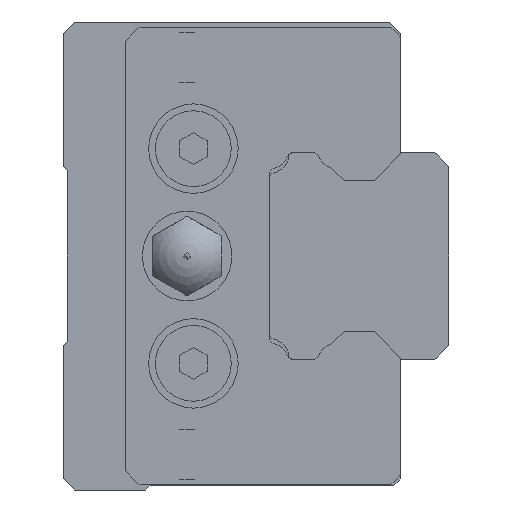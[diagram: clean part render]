
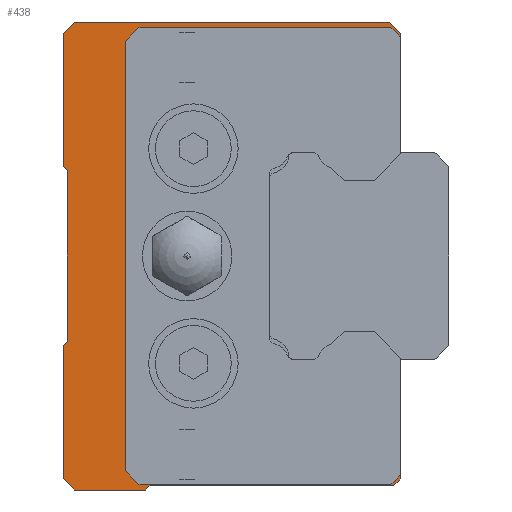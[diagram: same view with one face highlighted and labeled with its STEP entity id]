
A CAD part, left-side view. The second image highlights one B-rep face of the part: STEP entity #438.
In plain terms, the highlighted planar face has unit normal (-1, 0, 0).
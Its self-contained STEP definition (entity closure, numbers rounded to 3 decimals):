
#438 = ADVANCED_FACE( '', ( #893 ), #894, .F. );
#893 = FACE_OUTER_BOUND( '', #1465, .T. );
#894 = PLANE( '', #1466 );
#1465 = EDGE_LOOP( '', ( #2651, #2652, #2653, #2654, #2655, #2656, #2657, #2658, #2659, #2660, #2661, #2662, #2663, #2664, #2665, #2666, #2667, #2668, #2669, #2670, #2671, #2672 ) );
#1466 = AXIS2_PLACEMENT_3D( '', #2673, #2674, #2675 );
#2651 = ORIENTED_EDGE( '', *, *, #3565, .T. );
#2652 = ORIENTED_EDGE( '', *, *, #3562, .T. );
#2653 = ORIENTED_EDGE( '', *, *, #3436, .F. );
#2654 = ORIENTED_EDGE( '', *, *, #3446, .F. );
#2655 = ORIENTED_EDGE( '', *, *, #3448, .F. );
#2656 = ORIENTED_EDGE( '', *, *, #3450, .F. );
#2657 = ORIENTED_EDGE( '', *, *, #3405, .F. );
#2658 = ORIENTED_EDGE( '', *, *, #3430, .F. );
#2659 = ORIENTED_EDGE( '', *, *, #3467, .F. );
#2660 = ORIENTED_EDGE( '', *, *, #3465, .F. );
#2661 = ORIENTED_EDGE( '', *, *, #3463, .F. );
#2662 = ORIENTED_EDGE( '', *, *, #3459, .F. );
#2663 = ORIENTED_EDGE( '', *, *, #3457, .F. );
#2664 = ORIENTED_EDGE( '', *, *, #3455, .F. );
#2665 = ORIENTED_EDGE( '', *, *, #3453, .F. );
#2666 = ORIENTED_EDGE( '', *, *, #3451, .F. );
#2667 = ORIENTED_EDGE( '', *, *, #3442, .F. );
#2668 = ORIENTED_EDGE( '', *, *, #3561, .T. );
#2669 = ORIENTED_EDGE( '', *, *, #3559, .T. );
#2670 = ORIENTED_EDGE( '', *, *, #3556, .T. );
#2671 = ORIENTED_EDGE( '', *, *, #3553, .T. );
#2672 = ORIENTED_EDGE( '', *, *, #3567, .T. );
#2673 = CARTESIAN_POINT( '', ( 0., 0., 0. ) );
#2674 = DIRECTION( '', ( 1., 0., 0. ) );
#2675 = DIRECTION( '', ( 0., 0., -1. ) );
#3405 = EDGE_CURVE( '', #3998, #3999, #4000, .T. );
#3430 = EDGE_CURVE( '', #4047, #3998, #4048, .T. );
#3436 = EDGE_CURVE( '', #4056, #4058, #4059, .T. );
#3442 = EDGE_CURVE( '', #4068, #4070, #4071, .T. );
#3446 = EDGE_CURVE( '', #4076, #4056, #4077, .T. );
#3448 = EDGE_CURVE( '', #4079, #4076, #4080, .T. );
#3450 = EDGE_CURVE( '', #3999, #4079, #4082, .T. );
#3451 = EDGE_CURVE( '', #4070, #4083, #4084, .T. );
#3453 = EDGE_CURVE( '', #4083, #4086, #4087, .T. );
#3455 = EDGE_CURVE( '', #4086, #4089, #4090, .T. );
#3457 = EDGE_CURVE( '', #4089, #4092, #4093, .T. );
#3459 = EDGE_CURVE( '', #4092, #4095, #4096, .T. );
#3463 = EDGE_CURVE( '', #4095, #4102, #4103, .T. );
#3465 = EDGE_CURVE( '', #4102, #4105, #4106, .T. );
#3467 = EDGE_CURVE( '', #4105, #4047, #4108, .T. );
#3553 = EDGE_CURVE( '', #4247, #4248, #4249, .T. );
#3556 = EDGE_CURVE( '', #4252, #4247, #4253, .T. );
#3559 = EDGE_CURVE( '', #4257, #4252, #4258, .T. );
#3561 = EDGE_CURVE( '', #4068, #4257, #4260, .T. );
#3562 = EDGE_CURVE( '', #4261, #4058, #4262, .T. );
#3565 = EDGE_CURVE( '', #4266, #4261, #4267, .T. );
#3567 = EDGE_CURVE( '', #4248, #4266, #4269, .T. );
#3998 = VERTEX_POINT( '', #4862 );
#3999 = VERTEX_POINT( '', #4863 );
#4000 = LINE( '', #4864, #4865 );
#4047 = VERTEX_POINT( '', #4936 );
#4048 = LINE( '', #4937, #4938 );
#4056 = VERTEX_POINT( '', #4950 );
#4058 = VERTEX_POINT( '', #4953 );
#4059 = LINE( '', #4954, #4955 );
#4068 = VERTEX_POINT( '', #4968 );
#4070 = VERTEX_POINT( '', #4971 );
#4071 = LINE( '', #4972, #4973 );
#4076 = VERTEX_POINT( '', #4981 );
#4077 = LINE( '', #4982, #4983 );
#4079 = VERTEX_POINT( '', #4986 );
#4080 = LINE( '', #4987, #4988 );
#4082 = LINE( '', #4991, #4992 );
#4083 = VERTEX_POINT( '', #4993 );
#4084 = LINE( '', #4994, #4995 );
#4086 = VERTEX_POINT( '', #4998 );
#4087 = LINE( '', #4999, #5000 );
#4089 = VERTEX_POINT( '', #5003 );
#4090 = LINE( '', #5004, #5005 );
#4092 = VERTEX_POINT( '', #5008 );
#4093 = LINE( '', #5009, #5010 );
#4095 = VERTEX_POINT( '', #5013 );
#4096 = LINE( '', #5014, #5015 );
#4102 = VERTEX_POINT( '', #5022 );
#4103 = LINE( '', #5023, #5024 );
#4105 = VERTEX_POINT( '', #5027 );
#4106 = LINE( '', #5028, #5029 );
#4108 = LINE( '', #5032, #5033 );
#4247 = VERTEX_POINT( '', #5228 );
#4248 = VERTEX_POINT( '', #5229 );
#4249 = LINE( '', #5230, #5231 );
#4252 = VERTEX_POINT( '', #5236 );
#4253 = LINE( '', #5237, #5238 );
#4257 = VERTEX_POINT( '', #5243 );
#4258 = LINE( '', #5244, #5245 );
#4260 = LINE( '', #5248, #5249 );
#4261 = VERTEX_POINT( '', #5250 );
#4262 = LINE( '', #5251, #5252 );
#4266 = VERTEX_POINT( '', #5257 );
#4267 = LINE( '', #5258, #5259 );
#4269 = LINE( '', #5262, #5263 );
#4862 = CARTESIAN_POINT( '', ( 0., 28., 6.5 ) );
#4863 = CARTESIAN_POINT( '', ( 0., 28., 16.2 ) );
#4864 = CARTESIAN_POINT( '', ( 0., 28., 6.5 ) );
#4865 = VECTOR( '', #5979, 1000. );
#4936 = CARTESIAN_POINT( '', ( 0., 27.7, 6.2 ) );
#4937 = CARTESIAN_POINT( '', ( 0., 27.7, 6.2 ) );
#4938 = VECTOR( '', #6004, 1000. );
#4950 = CARTESIAN_POINT( '', ( 0., 3.5, 16.2 ) );
#4953 = CARTESIAN_POINT( '', ( 0., 3.5, 15.9 ) );
#4954 = CARTESIAN_POINT( '', ( 0., 3.5, 16.2 ) );
#4955 = VECTOR( '', #6010, 1000. );
#4968 = CARTESIAN_POINT( '', ( 0., 3.5, -15.9 ) );
#4971 = CARTESIAN_POINT( '', ( 0., 3.5, -16.2 ) );
#4972 = CARTESIAN_POINT( '', ( 0., 3.5, 16.2 ) );
#4973 = VECTOR( '', #6016, 1000. );
#4981 = CARTESIAN_POINT( '', ( 0., 4.3, 17. ) );
#4982 = CARTESIAN_POINT( '', ( 0., 4.3, 17. ) );
#4983 = VECTOR( '', #6020, 1000. );
#4986 = CARTESIAN_POINT( '', ( 0., 27.2, 17. ) );
#4987 = CARTESIAN_POINT( '', ( 0., 27.2, 17. ) );
#4988 = VECTOR( '', #6022, 1000. );
#4991 = CARTESIAN_POINT( '', ( 0., 28., 16.2 ) );
#4992 = VECTOR( '', #6024, 1000. );
#4993 = CARTESIAN_POINT( '', ( 0., 4., -16.7 ) );
#4994 = CARTESIAN_POINT( '', ( 0., 3.5, -16.2 ) );
#4995 = VECTOR( '', #6025, 1000. );
#4998 = CARTESIAN_POINT( '', ( 0., 21.7, -16.7 ) );
#4999 = CARTESIAN_POINT( '', ( 0., 4., -16.7 ) );
#5000 = VECTOR( '', #6027, 1000. );
#5003 = CARTESIAN_POINT( '', ( 0., 22., -17. ) );
#5004 = CARTESIAN_POINT( '', ( 0., 21.7, -16.7 ) );
#5005 = VECTOR( '', #6029, 1000. );
#5008 = CARTESIAN_POINT( '', ( 0., 27.2, -17. ) );
#5009 = CARTESIAN_POINT( '', ( 0., 22., -17. ) );
#5010 = VECTOR( '', #6031, 1000. );
#5013 = CARTESIAN_POINT( '', ( 0., 28., -16.2 ) );
#5014 = CARTESIAN_POINT( '', ( 0., 27.2, -17. ) );
#5015 = VECTOR( '', #6033, 1000. );
#5022 = CARTESIAN_POINT( '', ( 0., 28., -6.5 ) );
#5023 = CARTESIAN_POINT( '', ( 0., 28., -16.2 ) );
#5024 = VECTOR( '', #6041, 1000. );
#5027 = CARTESIAN_POINT( '', ( 0., 27.7, -6.2 ) );
#5028 = CARTESIAN_POINT( '', ( 0., 28., -6.5 ) );
#5029 = VECTOR( '', #6043, 1000. );
#5032 = CARTESIAN_POINT( '', ( 0., 27.7, -6.2 ) );
#5033 = VECTOR( '', #6045, 1000. );
#5228 = CARTESIAN_POINT( '', ( 0., 23.5, -15.6 ) );
#5229 = CARTESIAN_POINT( '', ( 0., 23.5, 15.6 ) );
#5230 = CARTESIAN_POINT( '', ( 0., 23.5, -15.6 ) );
#5231 = VECTOR( '', #6183, 1000. );
#5236 = CARTESIAN_POINT( '', ( 0., 22.5, -16.6 ) );
#5237 = CARTESIAN_POINT( '', ( 0., 22.5, -16.6 ) );
#5238 = VECTOR( '', #6186, 1000. );
#5243 = CARTESIAN_POINT( '', ( 0., 4.2, -16.6 ) );
#5244 = CARTESIAN_POINT( '', ( 0., 4.2, -16.6 ) );
#5245 = VECTOR( '', #6191, 1000. );
#5248 = CARTESIAN_POINT( '', ( 0., 3.5, -15.9 ) );
#5249 = VECTOR( '', #6193, 1000. );
#5250 = CARTESIAN_POINT( '', ( 0., 4.2, 16.6 ) );
#5251 = CARTESIAN_POINT( '', ( 0., 4.2, 16.6 ) );
#5252 = VECTOR( '', #6194, 1000. );
#5257 = CARTESIAN_POINT( '', ( 0., 22.5, 16.6 ) );
#5258 = CARTESIAN_POINT( '', ( 0., 22.5, 16.6 ) );
#5259 = VECTOR( '', #6199, 1000. );
#5262 = CARTESIAN_POINT( '', ( 0., 23.5, 15.6 ) );
#5263 = VECTOR( '', #6201, 1000. );
#5979 = DIRECTION( '', ( 0., 0., 1. ) );
#6004 = DIRECTION( '', ( 0., 0.707, 0.707 ) );
#6010 = DIRECTION( '', ( 0., 0., -1. ) );
#6016 = DIRECTION( '', ( 0., 0., -1. ) );
#6020 = DIRECTION( '', ( 0., -0.707, -0.707 ) );
#6022 = DIRECTION( '', ( 0., -1., 0. ) );
#6024 = DIRECTION( '', ( 0., -0.707, 0.707 ) );
#6025 = DIRECTION( '', ( 0., 0.707, -0.707 ) );
#6027 = DIRECTION( '', ( 0., 1., 0. ) );
#6029 = DIRECTION( '', ( 0., 0.707, -0.707 ) );
#6031 = DIRECTION( '', ( 0., 1., 0. ) );
#6033 = DIRECTION( '', ( 0., 0.707, 0.707 ) );
#6041 = DIRECTION( '', ( 0., 0., 1. ) );
#6043 = DIRECTION( '', ( 0., -0.707, 0.707 ) );
#6045 = DIRECTION( '', ( 0., 0., 1. ) );
#6183 = DIRECTION( '', ( 0., 0., 1. ) );
#6186 = DIRECTION( '', ( 0., 0.707, 0.707 ) );
#6191 = DIRECTION( '', ( 0., 1., 0. ) );
#6193 = DIRECTION( '', ( 0., 0.707, -0.707 ) );
#6194 = DIRECTION( '', ( 0., -0.707, -0.707 ) );
#6199 = DIRECTION( '', ( 0., -1., 0. ) );
#6201 = DIRECTION( '', ( 0., -0.707, 0.707 ) );
